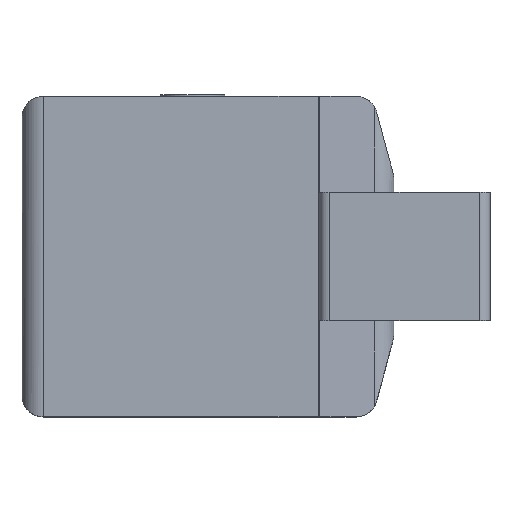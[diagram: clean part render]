
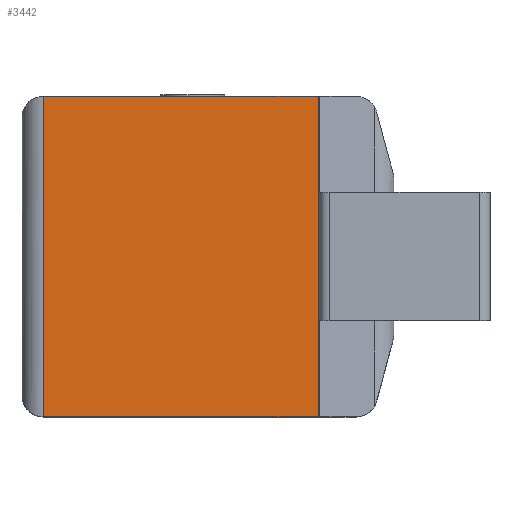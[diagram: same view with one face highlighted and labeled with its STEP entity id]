
A CAD part, top view. The second image highlights one B-rep face of the part: STEP entity #3442.
In plain terms, the highlighted planar face has unit normal (0, 0, 1).
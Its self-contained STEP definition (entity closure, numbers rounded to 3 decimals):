
#191=PLANE('',#3828);
#352=FACE_OUTER_BOUND('',#548,.T.);
#548=EDGE_LOOP('',(#2948,#2949,#2950,#2951));
#615=LINE('',#4926,#931);
#851=LINE('',#5683,#1167);
#875=LINE('',#5732,#1191);
#876=LINE('',#5735,#1192);
#931=VECTOR('',#3934,1.);
#1167=VECTOR('',#4652,1.);
#1191=VECTOR('',#4704,1.);
#1192=VECTOR('',#4709,1.);
#1382=VERTEX_POINT('',#4923);
#1383=VERTEX_POINT('',#4925);
#1617=VERTEX_POINT('',#5664);
#1632=VERTEX_POINT('',#5731);
#1718=EDGE_CURVE('',#1383,#1382,#615,.T.);
#2073=EDGE_CURVE('',#1617,#1382,#851,.T.);
#2097=EDGE_CURVE('',#1632,#1383,#875,.T.);
#2099=EDGE_CURVE('',#1617,#1632,#876,.T.);
#2948=ORIENTED_EDGE('',*,*,#1718,.T.);
#2949=ORIENTED_EDGE('',*,*,#2073,.F.);
#2950=ORIENTED_EDGE('',*,*,#2099,.T.);
#2951=ORIENTED_EDGE('',*,*,#2097,.T.);
#3442=ADVANCED_FACE('',(#352),#191,.T.);
#3828=AXIS2_PLACEMENT_3D('',#5734,#4707,#4708);
#3934=DIRECTION('',(1.,0.,0.));
#4652=DIRECTION('',(0.,-1.,0.));
#4704=DIRECTION('',(0.,-1.,0.));
#4707=DIRECTION('center_axis',(0.,0.,1.));
#4708=DIRECTION('ref_axis',(-1.,0.,0.));
#4709=DIRECTION('',(-1.,0.,0.));
#4923=CARTESIAN_POINT('',(7.,-15.,13.916));
#4925=CARTESIAN_POINT('',(-5.856,-15.,13.916));
#4926=CARTESIAN_POINT('',(7.,-15.,13.916));
#5664=CARTESIAN_POINT('',(7.,0.,13.916));
#5683=CARTESIAN_POINT('',(7.,0.,13.916));
#5731=CARTESIAN_POINT('',(-5.856,0.,13.916));
#5732=CARTESIAN_POINT('',(-5.856,0.,13.916));
#5734=CARTESIAN_POINT('Origin',(0.572,0.,13.916));
#5735=CARTESIAN_POINT('',(7.,0.,13.916));
